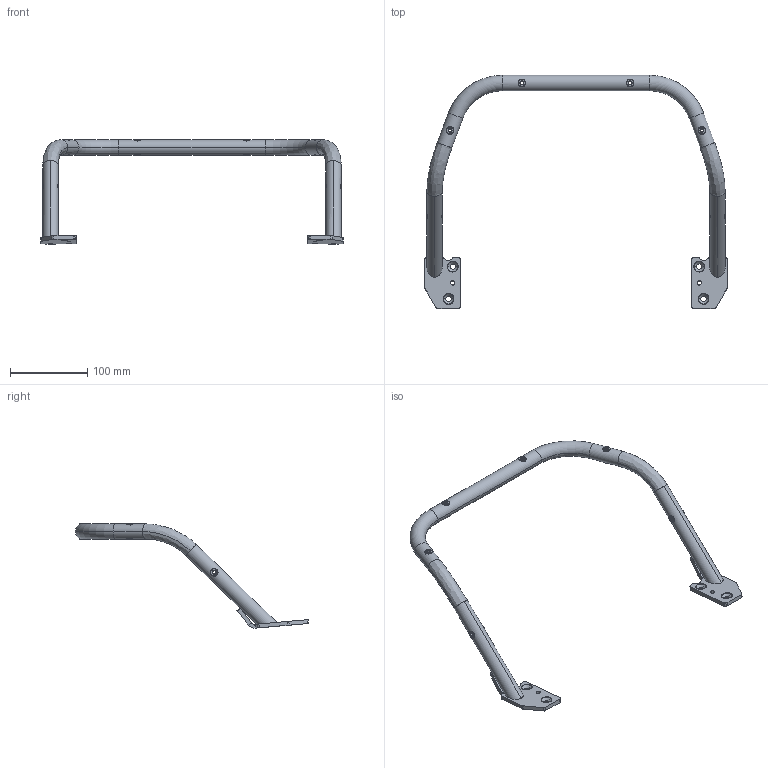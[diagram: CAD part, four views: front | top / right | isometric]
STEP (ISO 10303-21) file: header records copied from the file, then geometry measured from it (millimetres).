
FILE_DESCRIPTION (( 'STEP AP203' ), '1' );
FILE_NAME ('Rear-rack.STEP', '2026-04-08T03:38:09', ( '' ), ( '' ), 'SwSTEP 2.0', 'SolidWorks 2023', '' );
FILE_SCHEMA (( 'CONFIG_CONTROL_DESIGN' ));
Length unit declared in the file: millimetre
Products named in the file (1): Rear-rack
Bounding box: 391 x 301.99 x 135 mm (x, y, z)
Volume: 130105.2 mm3; surface area: 115580.2 mm2
Topology: 9 solids, 9 shells, 261 faces, 654 edges, 415 vertices
Faces by surface type: cylinder 121, cone 60, plane 56, bspline 16, torus 8
Entity records: 15386 total; most frequent: CARTESIAN_POINT 9170, ORIENTED_EDGE 1308, DIRECTION 1209, EDGE_CURVE 654, AXIS2_PLACEMENT_3D 490, VERTEX_POINT 415, EDGE_LOOP 319, ADVANCED_FACE 261
